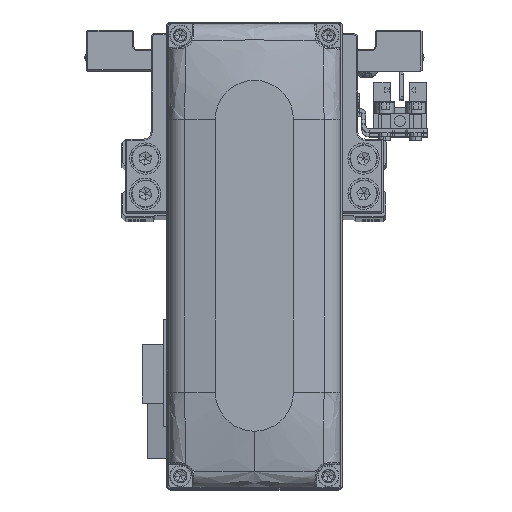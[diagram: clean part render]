
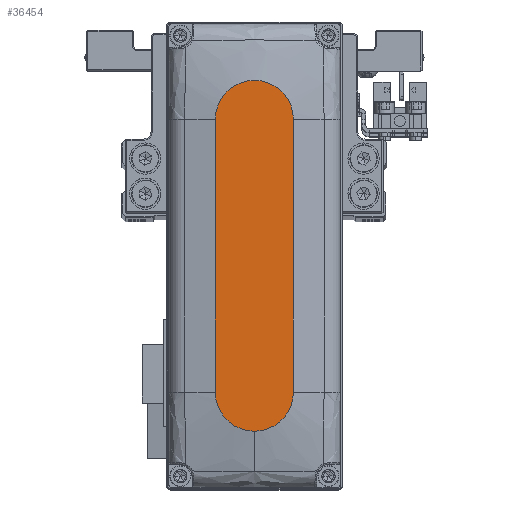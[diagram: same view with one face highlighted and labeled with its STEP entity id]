
A CAD part, top view. The second image highlights one B-rep face of the part: STEP entity #36454.
In plain terms, the highlighted planar face has unit normal (0, 0, 1).
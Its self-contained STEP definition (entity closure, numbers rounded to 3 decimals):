
#396 = EDGE_CURVE ( 'NONE', #22688, #27758, #2398, .T. ) ;
#808 = EDGE_CURVE ( 'NONE', #24368, #7357, #9810, .T. ) ;
#1280 = VECTOR ( 'NONE', #17662, 1000. ) ;
#1818 = AXIS2_PLACEMENT_3D ( 'NONE', #2074, #14600, #27203 ) ;
#2074 = CARTESIAN_POINT ( 'NONE',  ( 35., 0., 28. ) ) ;
#2398 = CIRCLE ( 'NONE', #1818, 10. ) ;
#3538 = CARTESIAN_POINT ( 'NONE',  ( -35., -10., 28. ) ) ;
#4821 = EDGE_LOOP ( 'NONE', ( #26204, #28053, #15077, #32966, #33776 ) ) ;
#5084 = CARTESIAN_POINT ( 'NONE',  ( -35., -10., 28. ) ) ;
#7357 = VERTEX_POINT ( 'NONE', #3538 ) ;
#8940 = DIRECTION ( 'NONE',  ( 0., 0., 1. ) ) ;
#9810 = CIRCLE ( 'NONE', #29522, 10. ) ;
#9820 = CARTESIAN_POINT ( 'NONE',  ( -35., 0., 28. ) ) ;
#9884 = CARTESIAN_POINT ( 'NONE',  ( 35., 0., 28. ) ) ;
#12029 = FACE_OUTER_BOUND ( 'NONE', #4821, .T. ) ;
#12231 = CARTESIAN_POINT ( 'NONE',  ( -35., 10., 28. ) ) ;
#12273 = AXIS2_PLACEMENT_3D ( 'NONE', #37173, #8940, #21525 ) ;
#13238 = EDGE_CURVE ( 'NONE', #7357, #22346, #33293, .T. ) ;
#13605 = CIRCLE ( 'NONE', #36622, 10. ) ;
#14600 = DIRECTION ( 'NONE',  ( 0., 0., 1. ) ) ;
#15077 = ORIENTED_EDGE ( 'NONE', *, *, #13238, .T. ) ;
#16778 = CARTESIAN_POINT ( 'NONE',  ( 35., 10., 28. ) ) ;
#17662 = DIRECTION ( 'NONE',  ( 1., 0., 0. ) ) ;
#21525 = DIRECTION ( 'NONE',  ( 1., 0., 0. ) ) ;
#21973 = CARTESIAN_POINT ( 'NONE',  ( -35., 10., 28. ) ) ;
#22346 = VERTEX_POINT ( 'NONE', #35910 ) ;
#22403 = DIRECTION ( 'NONE',  ( 0., 0., 1. ) ) ;
#22467 = DIRECTION ( 'NONE',  ( 0., 0., 1. ) ) ;
#22688 = VERTEX_POINT ( 'NONE', #30241 ) ;
#24095 = VECTOR ( 'NONE', #24830, 1000. ) ;
#24368 = VERTEX_POINT ( 'NONE', #21973 ) ;
#24634 = PLANE ( 'NONE',  #12273 ) ;
#24830 = DIRECTION ( 'NONE',  ( -1., 0., 0. ) ) ;
#26204 = ORIENTED_EDGE ( 'NONE', *, *, #40534, .T. ) ;
#27203 = DIRECTION ( 'NONE',  ( 1., 0., 0. ) ) ;
#27758 = VERTEX_POINT ( 'NONE', #16778 ) ;
#28053 = ORIENTED_EDGE ( 'NONE', *, *, #808, .T. ) ;
#28612 = EDGE_CURVE ( 'NONE', #22346, #22688, #13605, .T. ) ;
#29522 = AXIS2_PLACEMENT_3D ( 'NONE', #9820, #22403, #34949 ) ;
#30241 = CARTESIAN_POINT ( 'NONE',  ( 45., 0., 28. ) ) ;
#32966 = ORIENTED_EDGE ( 'NONE', *, *, #28612, .T. ) ;
#33293 = LINE ( 'NONE', #5084, #1280 ) ;
#33776 = ORIENTED_EDGE ( 'NONE', *, *, #396, .T. ) ;
#34949 = DIRECTION ( 'NONE',  ( 1., 0., 0. ) ) ;
#35005 = DIRECTION ( 'NONE',  ( 1., 0., 0. ) ) ;
#35910 = CARTESIAN_POINT ( 'NONE',  ( 35., -10., 28. ) ) ;
#36454 = ADVANCED_FACE ( 'NONE', ( #12029 ), #24634, .T. ) ;
#36622 = AXIS2_PLACEMENT_3D ( 'NONE', #9884, #22467, #35005 ) ;
#37173 = CARTESIAN_POINT ( 'NONE',  ( 0., 0., 28. ) ) ;
#40470 = LINE ( 'NONE', #12231, #24095 ) ;
#40534 = EDGE_CURVE ( 'NONE', #27758, #24368, #40470, .T. ) ;
